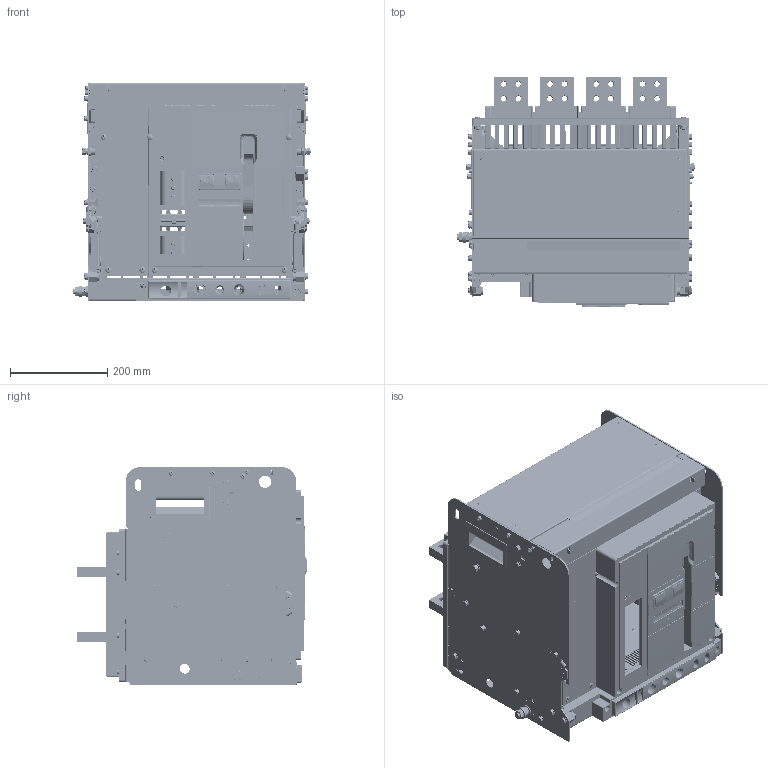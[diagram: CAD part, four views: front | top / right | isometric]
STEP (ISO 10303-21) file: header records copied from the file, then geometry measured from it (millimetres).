
FILE_DESCRIPTION((''),'2;1');
FILE_NAME('TEW5-2500-4P0001_ASM','2025-07-25T10:09:01',('geqiang'),(''),'CREO PARAMETRIC BY PTC INC, 2020354','CREO PARAMETRIC BY PTC INC, 2020354','');
FILE_SCHEMA(('CONFIG_CONTROL_DESIGN'));
Products named in the file (115): 8TZD_024_1158_2_20_1_1_2; 8_3378_300_102_1_1_1_2; 8TZD_235_1048_2_1_1_2; 8TZD_285_1020_2_1_1_2; 8WLK_141_016_1_1_1_2; 5TZD_300_1030_ASM_2_ASM_1_1_2_ASM; 5TZD_022_1032_ASM_6_ASM_1_1_2_ASM; 8TZD_050_1040_7_1_1_2; 8TZD_946_1025_5_1_1_2; 5TZD_050_1020_ASM_5_ASM_1_1_2_ASM; 8TZD_123_1034_4_1_1_2; 8TZD_123_1035_4_1_1_2; 8TZD_236_1024_4_1_1_2; 8TZD_206_1162_4_1_1_2; 8TZD_261_1023_4_1_1_2; 8TZD_206_1165_4_1_1_2; 8TZD_206_1163_4_1_1_2; 8TZD_261_1021_4_1_1_2; 8TZD_141_1030_4_1_1_2; 8TZD_206_1164_4_1_1_2; 5TZD_261_1002_ASM_4_ASM_1_1_2_ASM; 8TZD_261_1022_4_1_1_2; 8TZD_156_1061_4_1_1_2; 8TZD_156_1062_4_1_1_2; GB869_86_5X10_4_1_1_2; 8TZD_271_1062_5_1_1_2; 8TZD_271_1076_4_1_1_2; 8TZD_206_1128_2_1_1_2; 8TZD_220_1005_2_1_1_2; 8TZD_156_1008_2_1_1_2; 8TZD_206_1167_4_1_1_2; 5TZD_261_1007_ASM_4_ASM_1_1_2_ASM; 8TZD-906-1001_2_1_1_2; 8TZD_161_1010_2_1_1_2; GB-T97_1_6_11_1_1_2; 8TZ-925-1100_4_1_1_2; GB-T97_1_8_6_1_1_2; GB-T93-8_6_1_1_2; GB-T6170-M8_4_1_1_2; GB-T93-6_10_1_1_2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
Assembly tree (338 placements, depth 7):
  TEW5-2500-4P0001_ASM
    2500-4PCHOUTI_ASM_1_1_2_ASM
      2TZD-259-1356_ASM_11_ASM_1_1_2_ASM
        6TZD-229-1024_ASM_14_ASM_1_1_2_ASM
          5TZD_022_1032_ASM_6_ASM_1_1_2_ASM
            8TZD_024_1158_2_20_1_1_2
            5TZD_300_1030_ASM_2_ASM_1_1_2_ASM
              8_3378_300_102_1_1_1_2
              8TZD_235_1048_2_1_1_2
              8TZD_285_1020_2_1_1_2
              8WLK_141_016_1_1_1_2
          5TZD_050_1019_ASM_5_ASM_1_1_2_ASM
            5TZD_050_1020_ASM_5_ASM_1_1_2_ASM
              8TZD_050_1040_7_1_1_2
              8TZD_946_1025_5_1_1_2  x4
            8TZD_123_1034_4_1_1_2
            8TZD_123_1035_4_1_1_2
            8TZD_236_1024_4_1_1_2
            8TZD_206_1162_4_1_1_2
            5TZD_261_1002_ASM_4_ASM_1_1_2_ASM
              8TZD_261_1023_4_1_1_2
              8TZD_206_1165_4_1_1_2
              8TZD_206_1163_4_1_1_2  x2
              8TZD_261_1021_4_1_1_2  x2
              8TZD_141_1030_4_1_1_2
              8TZD_206_1164_4_1_1_2
            5TZD_261_1007_ASM_4_ASM_1_1_2_ASM
              8TZD_261_1022_4_1_1_2
              8TZD_156_1061_4_1_1_2
              8TZD_156_1062_4_1_1_2
              GB869_86_5X10_4_1_1_2  x4
              8TZD_271_1062_5_1_1_2
              8TZD_271_1076_4_1_1_2
              8TZD_206_1128_2_1_1_2
              8TZD_220_1005_2_1_1_2
              8TZD_156_1008_2_1_1_2
              8TZD_206_1167_4_1_1_2  x2
            8TZD-906-1001_2_1_1_2
            8TZD_161_1010_2_1_1_2
            GB-T97_1_6_11_1_1_2
            8TZ-925-1100_4_1_1_2
            GB-T97_1_8_6_1_1_2
            GB-T93-8_6_1_1_2
            GB-T6170-M8_4_1_1_2
            GB-T93-6_10_1_1_2
            GB-T6170-M6_5_1_1_2
            GB-T9074_17_M6X16_4_1_1_2  x7
            GB-T819_1-M5X8_2_1_1_2  x2
          5TZD_050_1021_ASM_2_ASM_1_1_2_ASM
            5TZD_050_1022_ASM_2_ASM_1_1_2_ASM
              8TZD_050_1041_3_1_1_2
              8TZD_946_1025_5_1_1_2  x5
            8TZD_123_1036_01_2_1_1_2
            8TZD_123_1035_4_1_1_2
            8TZD_236_1024_4_1_1_2
            8TZD_127_1003_2_1_1_2
            8TZD_206_1162_4_1_1_2
            8TZD_161_1020_2_1_1_2
            5TZD_260_1008_ASM_2_ASM_1_1_2_ASM
              8TZD_261_1024_2_1_1_2
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Bounding box: 487 x 473.6 x 448.7 mm (x, y, z)
Volume: 8615418.2 mm3; surface area: 4802950.4 mm2
Topology: 327 solids, 741 shells, 24572 faces, 65429 edges, 42130 vertices
Faces by surface type: plane 14995, cylinder 7128, cone 1228, torus 552, bspline 478, sphere 184, extrusion 7
Entity records: 655221 total; most frequent: CARTESIAN_POINT 155414, ORIENTED_EDGE 104993, DIRECTION 101741, EDGE_CURVE 52586, VECTOR 37581, LINE 37574, VERTEX_POINT 34103, AXIS2_PLACEMENT_3D 32080
